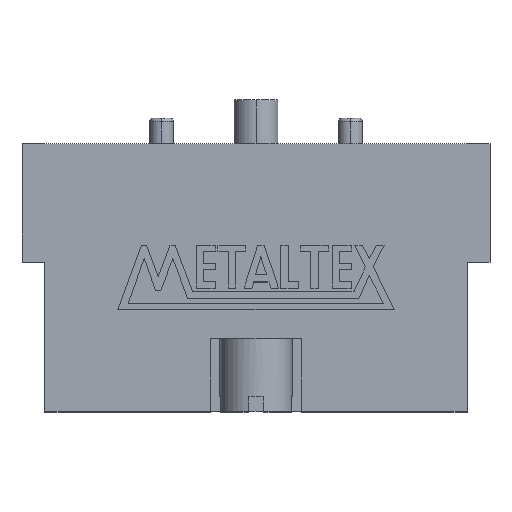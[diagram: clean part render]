
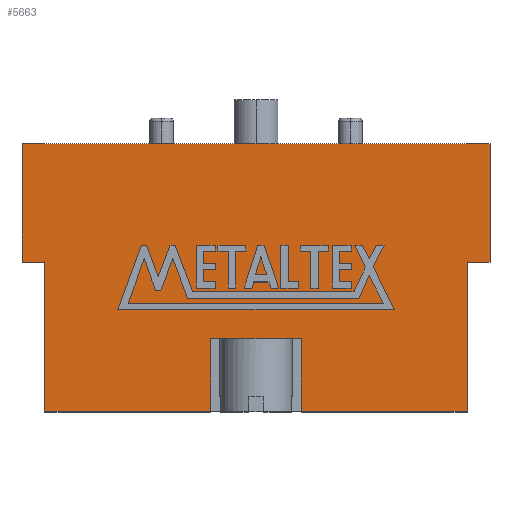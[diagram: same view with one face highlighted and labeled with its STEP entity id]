
A CAD part, top view. The second image highlights one B-rep face of the part: STEP entity #5663.
In plain terms, the highlighted planar face has unit normal (0, 0, 1).
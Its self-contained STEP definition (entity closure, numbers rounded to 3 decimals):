
#560 = DIRECTION ( 'NONE',  ( 1., 0., 0. ) ) ;
#561 = DIRECTION ( 'NONE',  ( 0., 0., 1. ) ) ;
#562 = CARTESIAN_POINT ( 'NONE',  ( 0., 0., 15.075 ) ) ;
#563 = PLANE ( 'NONE',  #7665 ) ;
#738 = DIRECTION ( 'NONE',  ( -1., 0., 0. ) ) ;
#739 = CARTESIAN_POINT ( 'NONE',  ( 0., 5., 15.075 ) ) ;
#740 = LINE ( 'NONE', #739, #7920 ) ;
#861 = DIRECTION ( 'NONE',  ( -1., 0., 0. ) ) ;
#862 = CARTESIAN_POINT ( 'NONE',  ( 14.5, 18.4, 15.075 ) ) ;
#863 = LINE ( 'NONE', #862, #2196 ) ;
#988 = DIRECTION ( 'NONE',  ( 1., 0., 0. ) ) ;
#989 = CARTESIAN_POINT ( 'NONE',  ( -14.5, 0., 15.075 ) ) ;
#990 = LINE ( 'NONE', #989, #2302 ) ;
#1000 = DIRECTION ( 'NONE',  ( 1., 0., 0. ) ) ;
#1001 = CARTESIAN_POINT ( 'NONE',  ( -14.5, 0., 15.075 ) ) ;
#1002 = LINE ( 'NONE', #1001, #2919 ) ;
#1015 = DIRECTION ( 'NONE',  ( 0., 1., 0. ) ) ;
#1016 = CARTESIAN_POINT ( 'NONE',  ( 14.5, 0., 15.075 ) ) ;
#1017 = LINE ( 'NONE', #1016, #2266 ) ;
#2196 = VECTOR ( 'NONE', #861, 1000. ) ;
#2266 = VECTOR ( 'NONE', #1015, 1000. ) ;
#2302 = VECTOR ( 'NONE', #988, 1000. ) ;
#2325 = VECTOR ( 'NONE', #3694, 1000. ) ;
#2527 = VECTOR ( 'NONE', #3691, 1000. ) ;
#2528 = VECTOR ( 'NONE', #3688, 1000. ) ;
#2529 = VECTOR ( 'NONE', #3685, 1000. ) ;
#2530 = VECTOR ( 'NONE', #3682, 1000. ) ;
#2531 = VECTOR ( 'NONE', #3679, 1000. ) ;
#2533 = VECTOR ( 'NONE', #3673, 1000. ) ;
#2919 = VECTOR ( 'NONE', #1000, 1000. ) ;
#3673 = DIRECTION ( 'NONE',  ( 0., 1., 0. ) ) ;
#3674 = CARTESIAN_POINT ( 'NONE',  ( -3.1, 0., 15.075 ) ) ;
#3675 = LINE ( 'NONE', #3674, #2533 ) ;
#3679 = DIRECTION ( 'NONE',  ( 1., 0., 0. ) ) ;
#3680 = CARTESIAN_POINT ( 'NONE',  ( -14.5, 10.25, 15.075 ) ) ;
#3681 = LINE ( 'NONE', #3680, #2531 ) ;
#3682 = DIRECTION ( 'NONE',  ( 0., 1., 0. ) ) ;
#3683 = CARTESIAN_POINT ( 'NONE',  ( -16.075, 10.25, 15.075 ) ) ;
#3684 = LINE ( 'NONE', #3683, #2530 ) ;
#3685 = DIRECTION ( 'NONE',  ( 0., 1., 0. ) ) ;
#3686 = CARTESIAN_POINT ( 'NONE',  ( 16.075, 10.25, 15.075 ) ) ;
#3687 = LINE ( 'NONE', #3686, #2529 ) ;
#3688 = DIRECTION ( 'NONE',  ( 1., 0., 0. ) ) ;
#3689 = CARTESIAN_POINT ( 'NONE',  ( 14.5, 10.25, 15.075 ) ) ;
#3690 = LINE ( 'NONE', #3689, #2528 ) ;
#3691 = DIRECTION ( 'NONE',  ( 0., 1., 0. ) ) ;
#3692 = CARTESIAN_POINT ( 'NONE',  ( 3.1, 0., 15.075 ) ) ;
#3693 = LINE ( 'NONE', #3692, #2527 ) ;
#3694 = DIRECTION ( 'NONE',  ( 0., -1., 0. ) ) ;
#3695 = CARTESIAN_POINT ( 'NONE',  ( -14.5, 18.4, 15.075 ) ) ;
#3696 = LINE ( 'NONE', #3695, #2325 ) ;
#3821 = EDGE_CURVE ( 'NONE', #6298, #6387, #3696, .T. ) ;
#3822 = EDGE_CURVE ( 'NONE', #6383, #6324, #3693, .T. ) ;
#3823 = EDGE_CURVE ( 'NONE', #6416, #6390, #3690, .T. ) ;
#3824 = EDGE_CURVE ( 'NONE', #6390, #6362, #3687, .T. ) ;
#3825 = EDGE_CURVE ( 'NONE', #6389, #6363, #3684, .T. ) ;
#3826 = EDGE_CURVE ( 'NONE', #6389, #6298, #3681, .T. ) ;
#3828 = EDGE_CURVE ( 'NONE', #6386, #6329, #3675, .T. ) ;
#4864 = CARTESIAN_POINT ( 'NONE',  ( -3.1, 0., 15.075 ) ) ;
#4870 = CARTESIAN_POINT ( 'NONE',  ( 3.1, 0., 15.075 ) ) ;
#4882 = CARTESIAN_POINT ( 'NONE',  ( -16.075, 10.25, 15.075 ) ) ;
#4903 = CARTESIAN_POINT ( 'NONE',  ( -16.075, 18.4, 15.075 ) ) ;
#4913 = CARTESIAN_POINT ( 'NONE',  ( -3.1, 5., 15.075 ) ) ;
#4917 = CARTESIAN_POINT ( 'NONE',  ( 3.1, 5., 15.075 ) ) ;
#4943 = CARTESIAN_POINT ( 'NONE',  ( -14.5, 10.25, 15.075 ) ) ;
#4960 = CARTESIAN_POINT ( 'NONE',  ( 16.075, 18.4, 15.075 ) ) ;
#4977 = CARTESIAN_POINT ( 'NONE',  ( 16.075, 10.25, 15.075 ) ) ;
#5005 = CARTESIAN_POINT ( 'NONE',  ( 14.5, 10.25, 15.075 ) ) ;
#5006 = CARTESIAN_POINT ( 'NONE',  ( 14.5, 0., 15.075 ) ) ;
#5008 = CARTESIAN_POINT ( 'NONE',  ( -14.5, 0., 15.075 ) ) ;
#5512 = EDGE_CURVE ( 'NONE', #6417, #6416, #1017, .T. ) ;
#5517 = EDGE_CURVE ( 'NONE', #6387, #6386, #1002, .T. ) ;
#5521 = EDGE_CURVE ( 'NONE', #6383, #6417, #990, .T. ) ;
#5563 = EDGE_CURVE ( 'NONE', #6362, #6363, #863, .T. ) ;
#5604 = EDGE_CURVE ( 'NONE', #6324, #6329, #740, .T. ) ;
#5663 = ADVANCED_FACE ( 'NONE', ( #7671 ), #563, .T. ) ;
#6298 = VERTEX_POINT ( 'NONE', #4943 ) ;
#6324 = VERTEX_POINT ( 'NONE', #4917 ) ;
#6329 = VERTEX_POINT ( 'NONE', #4913 ) ;
#6362 = VERTEX_POINT ( 'NONE', #4960 ) ;
#6363 = VERTEX_POINT ( 'NONE', #4903 ) ;
#6383 = VERTEX_POINT ( 'NONE', #4870 ) ;
#6386 = VERTEX_POINT ( 'NONE', #4864 ) ;
#6387 = VERTEX_POINT ( 'NONE', #5008 ) ;
#6389 = VERTEX_POINT ( 'NONE', #4882 ) ;
#6390 = VERTEX_POINT ( 'NONE', #4977 ) ;
#6416 = VERTEX_POINT ( 'NONE', #5005 ) ;
#6417 = VERTEX_POINT ( 'NONE', #5006 ) ;
#6766 = EDGE_LOOP ( 'NONE', ( #7037, #7038, #7036, #7040, #7039, #7042, #7041, #7043, #7045, #7044, #7047, #7046 ) ) ;
#7036 = ORIENTED_EDGE ( 'NONE', *, *, #5521, .T. ) ;
#7037 = ORIENTED_EDGE ( 'NONE', *, *, #5604, .F. ) ;
#7038 = ORIENTED_EDGE ( 'NONE', *, *, #3822, .F. ) ;
#7039 = ORIENTED_EDGE ( 'NONE', *, *, #3823, .T. ) ;
#7040 = ORIENTED_EDGE ( 'NONE', *, *, #5512, .T. ) ;
#7041 = ORIENTED_EDGE ( 'NONE', *, *, #5563, .T. ) ;
#7042 = ORIENTED_EDGE ( 'NONE', *, *, #3824, .T. ) ;
#7043 = ORIENTED_EDGE ( 'NONE', *, *, #3825, .F. ) ;
#7044 = ORIENTED_EDGE ( 'NONE', *, *, #3821, .T. ) ;
#7045 = ORIENTED_EDGE ( 'NONE', *, *, #3826, .T. ) ;
#7046 = ORIENTED_EDGE ( 'NONE', *, *, #3828, .T. ) ;
#7047 = ORIENTED_EDGE ( 'NONE', *, *, #5517, .T. ) ;
#7665 = AXIS2_PLACEMENT_3D ( 'NONE', #562, #561, #560 ) ;
#7671 = FACE_OUTER_BOUND ( 'NONE', #6766, .T. ) ;
#7920 = VECTOR ( 'NONE', #738, 1000. ) ;
